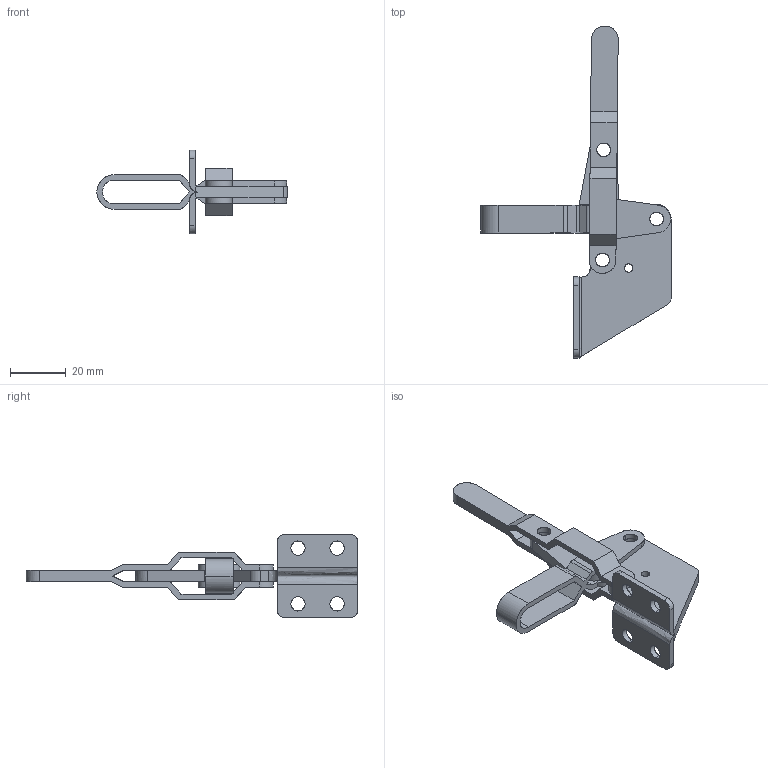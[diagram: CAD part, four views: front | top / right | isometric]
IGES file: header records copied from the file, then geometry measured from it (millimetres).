
Start section: Comment
Global section: file name: 101b.igs; native system:  By Spatial Corp.; preprocessor: XPlus PS/IGES 3.0; author: Author; organization: Title; date: 20050216.163200; units: inch
Bounding box: 68.2 x 118.99 x 30 mm (x, y, z)
Surface area: 13194.2 mm2 (no closed solid volume)
Topology: 0 solids, 0 shells, 143 faces, 798 edges, 798 vertices
Faces by surface type: extrusion 74, revolution 69
